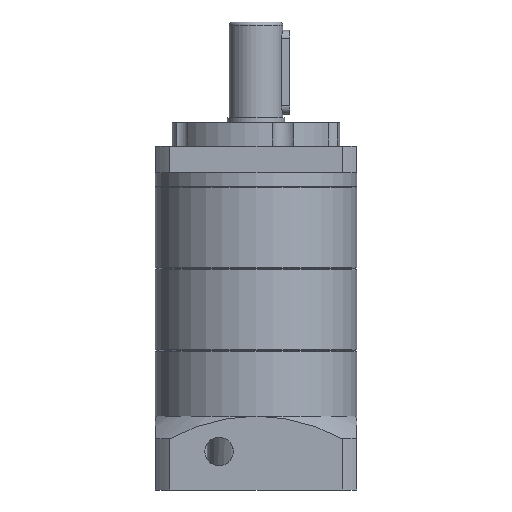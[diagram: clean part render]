
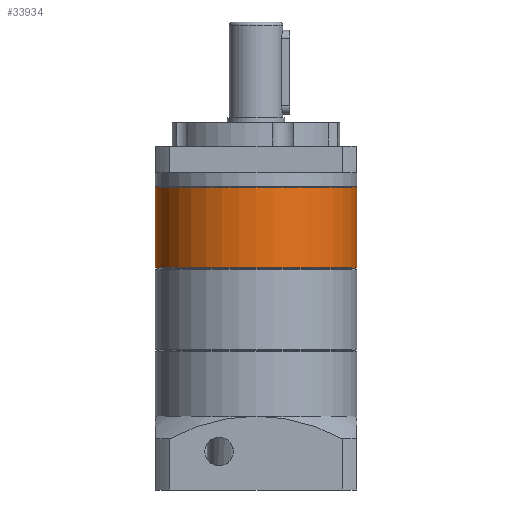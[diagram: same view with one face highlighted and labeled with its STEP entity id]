
A CAD part, front view. The second image highlights one B-rep face of the part: STEP entity #33934.
In plain terms, the highlighted cylindrical face has radius 30 mm (diameter 60 mm), a partial arc.
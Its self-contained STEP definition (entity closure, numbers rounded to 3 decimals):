
#481 = EDGE_CURVE ( 'NONE', #31596, #20035, #34611, .T. ) ;
#1023 = VECTOR ( 'NONE', #34745, 1000. ) ;
#5596 = CARTESIAN_POINT ( 'NONE',  ( 30., 0., -24.2 ) ) ;
#7318 = AXIS2_PLACEMENT_3D ( 'NONE', #34670, #12695, #38381 ) ;
#8304 = LINE ( 'NONE', #36212, #27821 ) ;
#10319 = AXIS2_PLACEMENT_3D ( 'NONE', #35054, #35115, #35228 ) ;
#11494 = ORIENTED_EDGE ( 'NONE', *, *, #37321, .T. ) ;
#11828 = LINE ( 'NONE', #27740, #1023 ) ;
#12695 = DIRECTION ( 'NONE',  ( 0., 0., 1. ) ) ;
#13641 = AXIS2_PLACEMENT_3D ( 'NONE', #16759, #42461, #20455 ) ;
#14045 = CIRCLE ( 'NONE', #7318, 30. ) ;
#14231 = DIRECTION ( 'NONE',  ( 0., 0., 1. ) ) ;
#16363 = CARTESIAN_POINT ( 'NONE',  ( -30., 0., -0.3 ) ) ;
#16759 = CARTESIAN_POINT ( 'NONE',  ( 0., 0., -24.2 ) ) ;
#20013 = EDGE_CURVE ( 'NONE', #34529, #23835, #14045, .T. ) ;
#20035 = VERTEX_POINT ( 'NONE', #16363 ) ;
#20455 = DIRECTION ( 'NONE',  ( 1., 0., 0. ) ) ;
#20831 = CARTESIAN_POINT ( 'NONE',  ( 0., 0., 0. ) ) ;
#23526 = FACE_OUTER_BOUND ( 'NONE', #32055, .T. ) ;
#23588 = CARTESIAN_POINT ( 'NONE',  ( -30., 0., -24.2 ) ) ;
#23835 = VERTEX_POINT ( 'NONE', #5596 ) ;
#25448 = VERTEX_POINT ( 'NONE', #23588 ) ;
#27740 = CARTESIAN_POINT ( 'NONE',  ( 30., 0., 0. ) ) ;
#27821 = VECTOR ( 'NONE', #14231, 1000. ) ;
#27830 = AXIS2_PLACEMENT_3D ( 'NONE', #20831, #28243, #42837 ) ;
#28120 = CARTESIAN_POINT ( 'NONE',  ( 0., -30., -24.2 ) ) ;
#28243 = DIRECTION ( 'NONE',  ( 0., 0., 1. ) ) ;
#28461 = CIRCLE ( 'NONE', #13641, 30. ) ;
#30666 = ORIENTED_EDGE ( 'NONE', *, *, #39561, .F. ) ;
#31596 = VERTEX_POINT ( 'NONE', #33452 ) ;
#32055 = EDGE_LOOP ( 'NONE', ( #30666, #38958, #43720, #11494, #47278 ) ) ;
#33452 = CARTESIAN_POINT ( 'NONE',  ( 30., 0., -0.3 ) ) ;
#33934 = ADVANCED_FACE ( 'NONE', ( #23526 ), #41923, .T. ) ;
#34529 = VERTEX_POINT ( 'NONE', #28120 ) ;
#34611 = CIRCLE ( 'NONE', #10319, 30. ) ;
#34670 = CARTESIAN_POINT ( 'NONE',  ( 0., 0., -24.2 ) ) ;
#34745 = DIRECTION ( 'NONE',  ( 0., 0., 1. ) ) ;
#35054 = CARTESIAN_POINT ( 'NONE',  ( 0., 0., -0.3 ) ) ;
#35115 = DIRECTION ( 'NONE',  ( 0., 0., -1. ) ) ;
#35228 = DIRECTION ( 'NONE',  ( 1., 0., 0. ) ) ;
#36212 = CARTESIAN_POINT ( 'NONE',  ( -30., 0., 0. ) ) ;
#37321 = EDGE_CURVE ( 'NONE', #23835, #31596, #11828, .T. ) ;
#38381 = DIRECTION ( 'NONE',  ( 1., 0., 0. ) ) ;
#38958 = ORIENTED_EDGE ( 'NONE', *, *, #47309, .T. ) ;
#39561 = EDGE_CURVE ( 'NONE', #25448, #20035, #8304, .T. ) ;
#41923 = CYLINDRICAL_SURFACE ( 'NONE', #27830, 30. ) ;
#42461 = DIRECTION ( 'NONE',  ( 0., 0., 1. ) ) ;
#42837 = DIRECTION ( 'NONE',  ( 1., 0., 0. ) ) ;
#43720 = ORIENTED_EDGE ( 'NONE', *, *, #20013, .T. ) ;
#47278 = ORIENTED_EDGE ( 'NONE', *, *, #481, .T. ) ;
#47309 = EDGE_CURVE ( 'NONE', #25448, #34529, #28461, .T. ) ;
